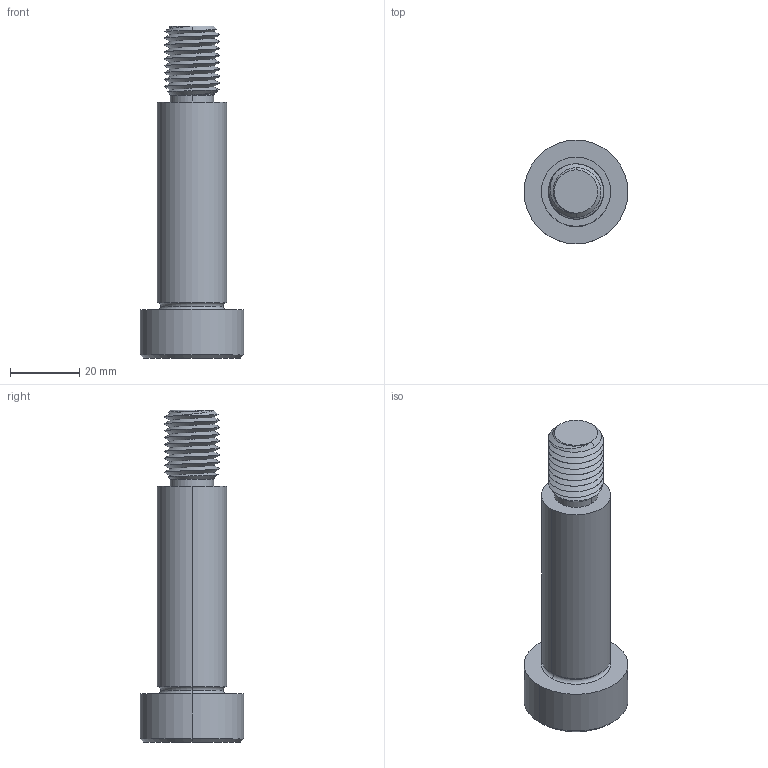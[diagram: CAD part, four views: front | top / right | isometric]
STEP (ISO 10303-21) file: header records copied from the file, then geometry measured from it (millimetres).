
FILE_DESCRIPTION (( 'STEP AP203' ), '1' );
FILE_NAME ('P0130.200-060-B2.step', '2021-11-09T22:24:19', ( '' ), ( '' ), 'SwSTEP 2.0', 'SolidWorks 2019', '' );
FILE_SCHEMA (( 'CONFIG_CONTROL_DESIGN' ));
Length unit declared in the file: millimetre
Products named in the file (1): P0130.200-060-B2
Bounding box: 30 x 30 x 96 mm (x, y, z)
Volume: 31054.1 mm3; surface area: 8673.8 mm2
Topology: 1 solids, 1 shells, 60 faces, 142 edges, 85 vertices
Faces by surface type: cylinder 24, plane 16, cone 14, torus 4, bspline 2
Entity records: 5678 total; most frequent: CARTESIAN_POINT 4332, ORIENTED_EDGE 280, DIRECTION 247, EDGE_CURVE 140, AXIS2_PLACEMENT_3D 99, VERTEX_POINT 85, EDGE_LOOP 63, FACE_OUTER_BOUND 60
